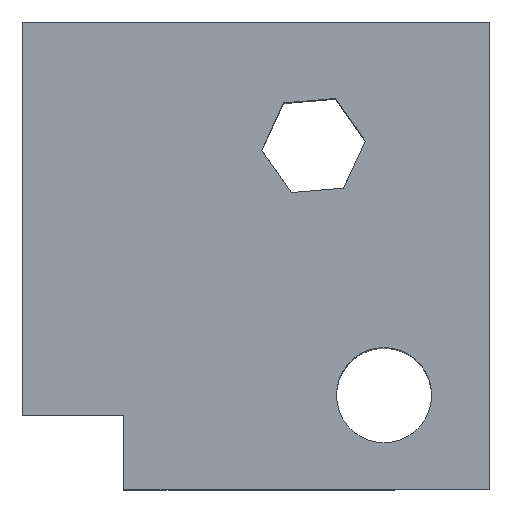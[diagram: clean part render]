
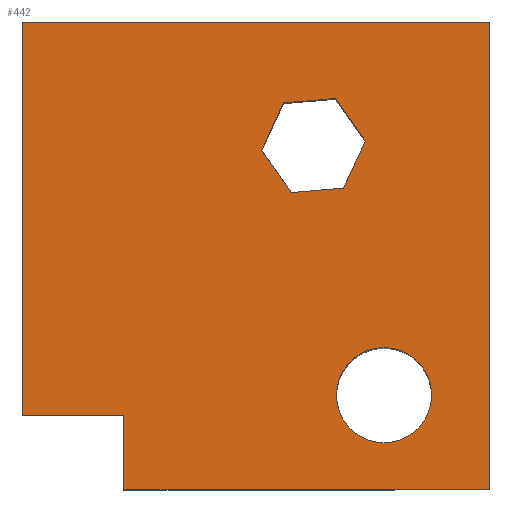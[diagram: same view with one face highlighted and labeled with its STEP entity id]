
A CAD part, top view. The second image highlights one B-rep face of the part: STEP entity #442.
In plain terms, the highlighted planar face has unit normal (0, 0, 1).
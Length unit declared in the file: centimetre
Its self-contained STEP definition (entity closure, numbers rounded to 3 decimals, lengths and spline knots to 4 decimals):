
#1 = LINE ( 'NONE', #812, #1902 ) ;
#9 = EDGE_CURVE ( 'NONE', #788, #1249, #745, .T. ) ;
#30 = CARTESIAN_POINT ( 'NONE',  ( 559.3147, 826.7393, 1000. ) ) ;
#39 = EDGE_CURVE ( 'NONE', #1521, #1310, #1609, .T. ) ;
#52 = EDGE_CURVE ( 'NONE', #1213, #212, #1085, .T. ) ;
#77 = DIRECTION ( 'NONE',  ( 0., -1., 0. ) ) ;
#80 = VERTEX_POINT ( 'NONE', #917 ) ;
#93 = VECTOR ( 'NONE', #1072, 100. ) ;
#103 = DIRECTION ( 'NONE',  ( -0.573, 0.819, 0. ) ) ;
#138 = ORIENTED_EDGE ( 'NONE', *, *, #204, .F. ) ;
#177 = ORIENTED_EDGE ( 'NONE', *, *, #52, .T. ) ;
#196 = VERTEX_POINT ( 'NONE', #470 ) ;
#204 = EDGE_CURVE ( 'NONE', #1114, #1426, #2165, .T. ) ;
#206 = LINE ( 'NONE', #880, #93 ) ;
#212 = VERTEX_POINT ( 'NONE', #489 ) ;
#220 = DIRECTION ( 'NONE',  ( 1., 0., 0. ) ) ;
#235 = ORIENTED_EDGE ( 'NONE', *, *, #562, .T. ) ;
#236 = LINE ( 'NONE', #557, #1233 ) ;
#240 = LINE ( 'NONE', #1103, #2002 ) ;
#289 = CARTESIAN_POINT ( 'NONE',  ( 733.8369, 745.2295, 1000. ) ) ;
#324 = VERTEX_POINT ( 'NONE', #1584 ) ;
#329 = CARTESIAN_POINT ( 'NONE',  ( 512.2551, 725.9789, 1000. ) ) ;
#358 = EDGE_CURVE ( 'NONE', #1310, #1521, #1572, .T. ) ;
#436 = EDGE_LOOP ( 'NONE', ( #865, #1853, #235, #177, #1494, #1714 ) ) ;
#442 = ADVANCED_FACE ( 'NONE', ( #827, #2166, #481 ), #1172, .T. ) ;
#443 = CARTESIAN_POINT ( 'NONE',  ( 0., 1000., 1000. ) ) ;
#450 = VECTOR ( 'NONE', #103, 100. ) ;
#451 = VECTOR ( 'NONE', #909, 100. ) ;
#461 = DIRECTION ( 'NONE',  ( 0., 0., 1. ) ) ;
#470 = CARTESIAN_POINT ( 'NONE',  ( 0., 158.7907, 1000. ) ) ;
#481 = FACE_BOUND ( 'NONE', #436, .T. ) ;
#489 = CARTESIAN_POINT ( 'NONE',  ( 686.7772, 644.4691, 1000. ) ) ;
#496 = CARTESIAN_POINT ( 'NONE',  ( 0., 1000., 1000. ) ) ;
#520 = ORIENTED_EDGE ( 'NONE', *, *, #1038, .T. ) ;
#549 = CARTESIAN_POINT ( 'NONE',  ( 0., 1000., 1000. ) ) ;
#557 = CARTESIAN_POINT ( 'NONE',  ( 0., 0., 1000. ) ) ;
#561 = DIRECTION ( 'NONE',  ( -0.996, -0.087, 0. ) ) ;
#562 = EDGE_CURVE ( 'NONE', #324, #1213, #1337, .T. ) ;
#583 = EDGE_CURVE ( 'NONE', #212, #712, #240, .T. ) ;
#620 = LINE ( 'NONE', #443, #852 ) ;
#621 = AXIS2_PLACEMENT_3D ( 'NONE', #1460, #461, #1499 ) ;
#633 = DIRECTION ( 'NONE',  ( 0., 1., 0. ) ) ;
#647 = CARTESIAN_POINT ( 'NONE',  ( 217.3169, 0., 1000. ) ) ;
#659 = DIRECTION ( 'NONE',  ( 0., 0., 1. ) ) ;
#661 = AXIS2_PLACEMENT_3D ( 'NONE', #1833, #659, #1341 ) ;
#690 = ORIENTED_EDGE ( 'NONE', *, *, #358, .F. ) ;
#712 = VERTEX_POINT ( 'NONE', #1454 ) ;
#720 = CARTESIAN_POINT ( 'NONE',  ( 875.7601, 201.3111, 1000. ) ) ;
#745 = LINE ( 'NONE', #549, #1687 ) ;
#782 = EDGE_CURVE ( 'NONE', #80, #788, #2117, .T. ) ;
#788 = VERTEX_POINT ( 'NONE', #2162 ) ;
#812 = CARTESIAN_POINT ( 'NONE',  ( 559.3147, 826.7393, 1000. ) ) ;
#815 = VECTOR ( 'NONE', #1188, 100. ) ;
#827 = FACE_OUTER_BOUND ( 'NONE', #2106, .T. ) ;
#852 = VECTOR ( 'NONE', #77, 100. ) ;
#854 = VECTOR ( 'NONE', #1329, 100. ) ;
#865 = ORIENTED_EDGE ( 'NONE', *, *, #1916, .T. ) ;
#869 = VERTEX_POINT ( 'NONE', #30 ) ;
#880 = CARTESIAN_POINT ( 'NONE',  ( 0., 158.7907, 1000. ) ) ;
#903 = CARTESIAN_POINT ( 'NONE',  ( 733.8369, 745.2295, 1000. ) ) ;
#909 = DIRECTION ( 'NONE',  ( 0.423, 0.906, 0. ) ) ;
#917 = CARTESIAN_POINT ( 'NONE',  ( 1000., 0., 1000. ) ) ;
#954 = CARTESIAN_POINT ( 'NONE',  ( 575.9863, 634.8438, 1000. ) ) ;
#995 = CARTESIAN_POINT ( 'NONE',  ( 672.2577, 201.3111, 1000. ) ) ;
#1008 = EDGE_CURVE ( 'NONE', #712, #1871, #1478, .T. ) ;
#1038 = EDGE_CURVE ( 'NONE', #1249, #196, #620, .T. ) ;
#1072 = DIRECTION ( 'NONE',  ( -1., 0., 0. ) ) ;
#1079 = DIRECTION ( 'NONE',  ( 1., 0., 0. ) ) ;
#1085 = LINE ( 'NONE', #903, #1234 ) ;
#1103 = CARTESIAN_POINT ( 'NONE',  ( 686.7772, 644.4691, 1000. ) ) ;
#1106 = CARTESIAN_POINT ( 'NONE',  ( 1000., 1000., 1000. ) ) ;
#1110 = CARTESIAN_POINT ( 'NONE',  ( 774.0089, 201.3111, 1000. ) ) ;
#1114 = VERTEX_POINT ( 'NONE', #2020 ) ;
#1150 = EDGE_CURVE ( 'NONE', #1426, #196, #206, .T. ) ;
#1172 = PLANE ( 'NONE',  #661 ) ;
#1183 = EDGE_LOOP ( 'NONE', ( #1891, #690 ) ) ;
#1188 = DIRECTION ( 'NONE',  ( 0.573, -0.819, 0. ) ) ;
#1213 = VERTEX_POINT ( 'NONE', #289 ) ;
#1233 = VECTOR ( 'NONE', #1079, 100. ) ;
#1234 = VECTOR ( 'NONE', #2097, 100. ) ;
#1248 = DIRECTION ( 'NONE',  ( 0., 0., 1. ) ) ;
#1249 = VERTEX_POINT ( 'NONE', #496 ) ;
#1262 = LINE ( 'NONE', #329, #451 ) ;
#1310 = VERTEX_POINT ( 'NONE', #995 ) ;
#1325 = DIRECTION ( 'NONE',  ( 0.996, 0.087, 0. ) ) ;
#1327 = CARTESIAN_POINT ( 'NONE',  ( 670.1056, 836.3646, 1000. ) ) ;
#1329 = DIRECTION ( 'NONE',  ( 0., 1., 0. ) ) ;
#1337 = LINE ( 'NONE', #1327, #815 ) ;
#1341 = DIRECTION ( 'NONE',  ( 1., 0., 0. ) ) ;
#1388 = ORIENTED_EDGE ( 'NONE', *, *, #1841, .T. ) ;
#1403 = VECTOR ( 'NONE', #633, 100. ) ;
#1425 = DIRECTION ( 'NONE',  ( -1., 0., 0. ) ) ;
#1426 = VERTEX_POINT ( 'NONE', #1523 ) ;
#1454 = CARTESIAN_POINT ( 'NONE',  ( 575.9863, 634.8438, 1000. ) ) ;
#1460 = CARTESIAN_POINT ( 'NONE',  ( 774.0089, 201.3111, 1000. ) ) ;
#1478 = LINE ( 'NONE', #954, #450 ) ;
#1494 = ORIENTED_EDGE ( 'NONE', *, *, #583, .T. ) ;
#1499 = DIRECTION ( 'NONE',  ( 1., 0., 0. ) ) ;
#1521 = VERTEX_POINT ( 'NONE', #720 ) ;
#1523 = CARTESIAN_POINT ( 'NONE',  ( 217.3169, 158.7907, 1000. ) ) ;
#1572 = CIRCLE ( 'NONE', #621, 101.7512 ) ;
#1584 = CARTESIAN_POINT ( 'NONE',  ( 670.1056, 836.3646, 1000. ) ) ;
#1609 = CIRCLE ( 'NONE', #2186, 101.7512 ) ;
#1687 = VECTOR ( 'NONE', #1425, 100. ) ;
#1714 = ORIENTED_EDGE ( 'NONE', *, *, #1008, .T. ) ;
#1754 = ORIENTED_EDGE ( 'NONE', *, *, #782, .T. ) ;
#1833 = CARTESIAN_POINT ( 'NONE',  ( 0., 0., 1000. ) ) ;
#1841 = EDGE_CURVE ( 'NONE', #1114, #80, #236, .T. ) ;
#1853 = ORIENTED_EDGE ( 'NONE', *, *, #2144, .T. ) ;
#1871 = VERTEX_POINT ( 'NONE', #2050 ) ;
#1891 = ORIENTED_EDGE ( 'NONE', *, *, #39, .F. ) ;
#1892 = ORIENTED_EDGE ( 'NONE', *, *, #9, .T. ) ;
#1902 = VECTOR ( 'NONE', #1325, 100. ) ;
#1916 = EDGE_CURVE ( 'NONE', #1871, #869, #1262, .T. ) ;
#1945 = ORIENTED_EDGE ( 'NONE', *, *, #1150, .F. ) ;
#2002 = VECTOR ( 'NONE', #561, 100. ) ;
#2020 = CARTESIAN_POINT ( 'NONE',  ( 217.3169, 0., 1000. ) ) ;
#2050 = CARTESIAN_POINT ( 'NONE',  ( 512.2551, 725.9789, 1000. ) ) ;
#2097 = DIRECTION ( 'NONE',  ( -0.423, -0.906, 0. ) ) ;
#2106 = EDGE_LOOP ( 'NONE', ( #1945, #138, #1388, #1754, #1892, #520 ) ) ;
#2117 = LINE ( 'NONE', #1106, #1403 ) ;
#2144 = EDGE_CURVE ( 'NONE', #869, #324, #1, .T. ) ;
#2162 = CARTESIAN_POINT ( 'NONE',  ( 1000., 1000., 1000. ) ) ;
#2165 = LINE ( 'NONE', #647, #854 ) ;
#2166 = FACE_BOUND ( 'NONE', #1183, .T. ) ;
#2186 = AXIS2_PLACEMENT_3D ( 'NONE', #1110, #1248, #220 ) ;
